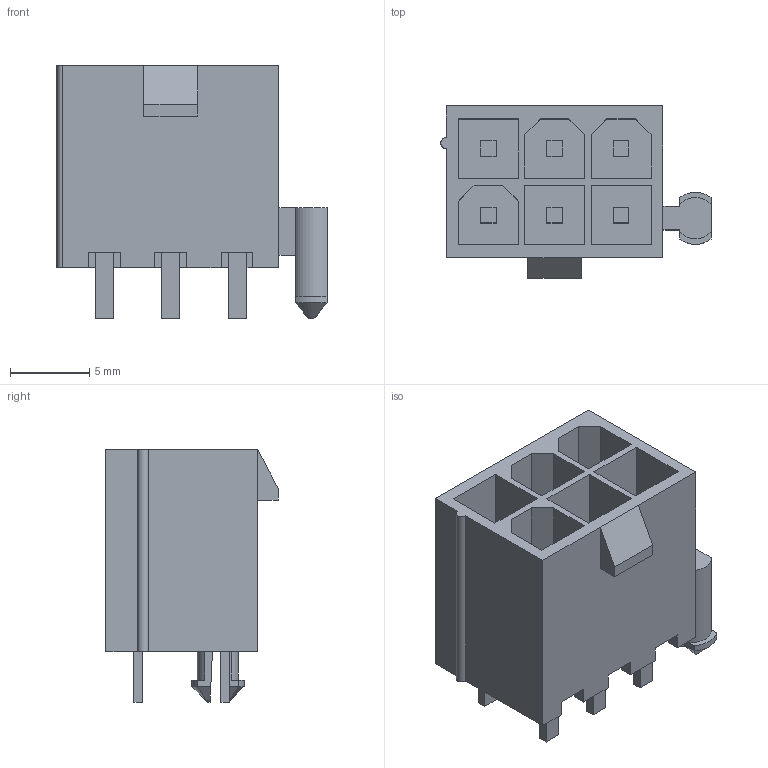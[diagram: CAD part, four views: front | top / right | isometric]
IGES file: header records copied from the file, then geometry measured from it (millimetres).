
Start section:  PTC IGES file: c-3-1775099-1-e-3d.igs
Global section: file name: c-3-1775099-1-e-3d.igs; native system: Creo Parametric by PTC Inc.; preprocessor: 2016050; author: workeradm; organization: Unknown; units: millimetre
Bounding box: 17.1 x 10.9 x 16 mm (x, y, z)
Surface area: 2012.7 mm2 (no closed solid volume)
Topology: 0 solids, 0 shells, 170 faces, 878 edges, 878 vertices
Faces by surface type: bspline 158, revolution 12
